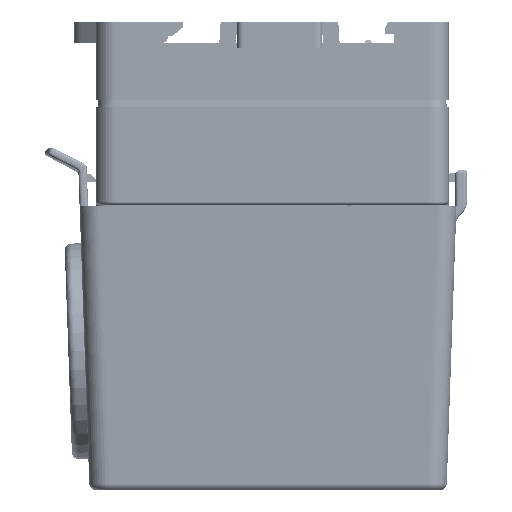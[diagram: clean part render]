
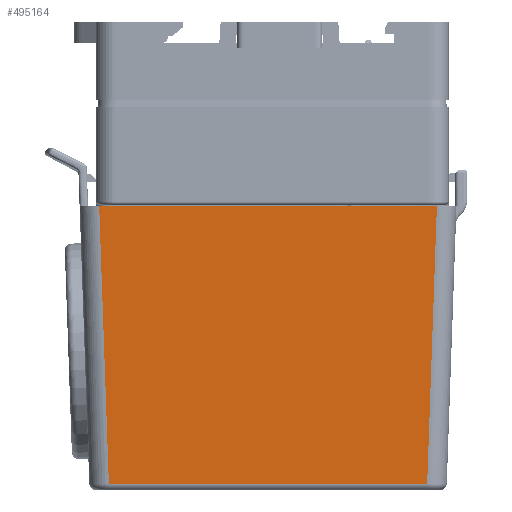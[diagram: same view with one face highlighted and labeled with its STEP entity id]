
A CAD part, left-side view. The second image highlights one B-rep face of the part: STEP entity #495164.
In plain terms, the highlighted planar face has unit normal (-0.999, 0, -0.035).
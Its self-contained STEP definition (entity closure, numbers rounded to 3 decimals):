
#486426=DIRECTION('',(0.,1.,0.));
#486427=VECTOR('',#486426,51.669);
#486428=CARTESIAN_POINT('',(-53.983,-25.684,
-6.5));
#486429=LINE('',#486428,#486427);
#489666=DIRECTION('',(0.035,0.035,-0.999));
#489667=VECTOR('',#489666,42.587);
#489668=CARTESIAN_POINT('',(-53.983,-25.684,
-6.5));
#489669=LINE('',#489668,#489667);
#489670=DIRECTION('',(0.,1.,0.));
#489671=VECTOR('',#489670,48.698);
#489672=CARTESIAN_POINT('',(-52.497,-24.199,
-49.035));
#489673=LINE('',#489672,#489671);
#489674=DIRECTION('',(-0.035,0.035,0.999));
#489675=VECTOR('',#489674,42.587);
#489676=CARTESIAN_POINT('',(-52.497,24.499,
-49.035));
#489677=LINE('',#489676,#489675);
#489678=CARTESIAN_POINT('',(-53.983,-25.684,
-6.5));
#489787=VERTEX_POINT('',#489678);
#489788=CARTESIAN_POINT('',(-53.983,25.984,
-6.5));
#489789=VERTEX_POINT('',#489788);
#490397=CARTESIAN_POINT('',(-52.497,24.499,
-49.035));
#490398=VERTEX_POINT('',#490397);
#490400=CARTESIAN_POINT('',(-52.497,-24.199,
-49.035));
#490401=VERTEX_POINT('',#490400);
#495151=CARTESIAN_POINT('',(-54.,31.2,-6.));
#495152=DIRECTION('',(-0.999,0.,-0.035));
#495153=DIRECTION('',(0.,-1.,0.));
#495154=AXIS2_PLACEMENT_3D('',#495151,#495152,#495153);
#495155=PLANE('',#495154);
#495156=ORIENTED_EDGE('',*,*,#490434,.F.);
#495158=ORIENTED_EDGE('',*,*,#495157,.T.);
#495160=ORIENTED_EDGE('',*,*,#495159,.T.);
#495161=ORIENTED_EDGE('',*,*,#495142,.T.);
#495162=EDGE_LOOP('',(#495156,#495158,#495160,#495161));
#495163=FACE_OUTER_BOUND('',#495162,.F.);
#495164=ADVANCED_FACE('',(#495163),#495155,.T.);
#490434=EDGE_CURVE('',#489787,#489789,#486429,.T.);
#495142=EDGE_CURVE('',#490398,#489789,#489677,.T.);
#495157=EDGE_CURVE('',#489787,#490401,#489669,.T.);
#495159=EDGE_CURVE('',#490401,#490398,#489673,.T.);
